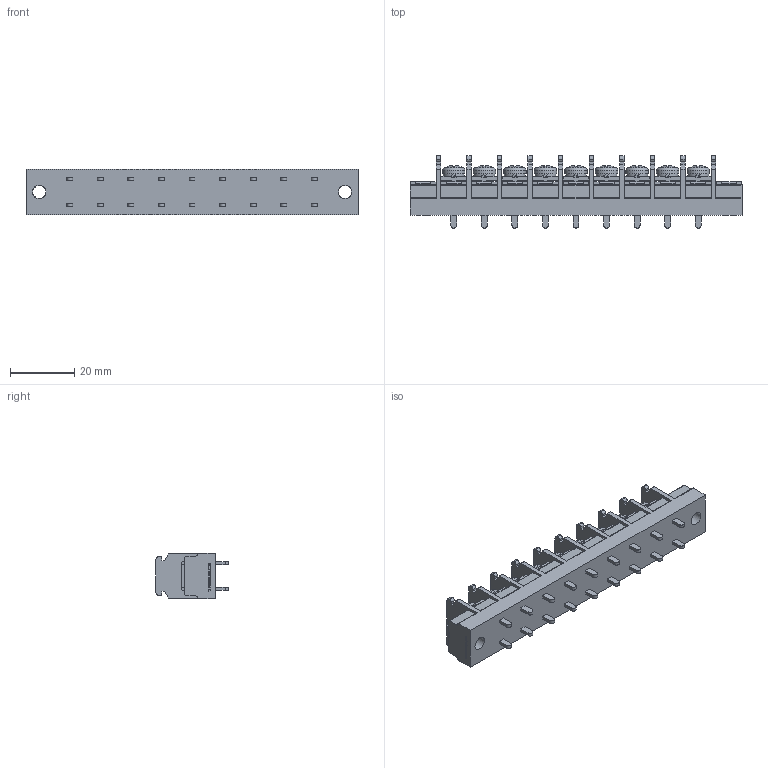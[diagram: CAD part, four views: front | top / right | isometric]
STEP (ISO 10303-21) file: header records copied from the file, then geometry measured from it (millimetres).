
FILE_DESCRIPTION(/* description */ ('Alibre Inc.'),/* implementation_level */ '2;1');
FILE_NAME(/* name */ 'export-692994E7-27B2-4F3E-973D-837385CB837C',/* time_stamp */ '2021-02-13T17:12:46+09:00',/* author */ (''),/* organization */ (''),/* preprocessor_version */ 'ST-DEVELOPER v17',/* originating_system */ 'Alibre',/* authorisation */ '');
FILE_SCHEMA (('CONFIG_CONTROL_DESIGN'));
Length unit declared in the file: millimetre
Bounding box: 103.2 x 22.5 x 14 mm (x, y, z)
Volume: 16771.6 mm3; surface area: 11350 mm2
Topology: 1 solids, 26 shells, 1543 faces, 4313 edges, 2837 vertices
Faces by surface type: plane 1154, cylinder 213, bspline 104, cone 45, torus 18, sphere 9
Full cylindrical faces by diameter (mm): 4 x20, 4.2 x2, 7 x9
Entity records: 47028 total; most frequent: CARTESIAN_POINT 9587, ORIENTED_EDGE 8470, DIRECTION 6161, EDGE_CURVE 4235, VECTOR 3083, LINE 3083, VERTEX_POINT 2817, AXIS2_PLACEMENT_3D 2079
